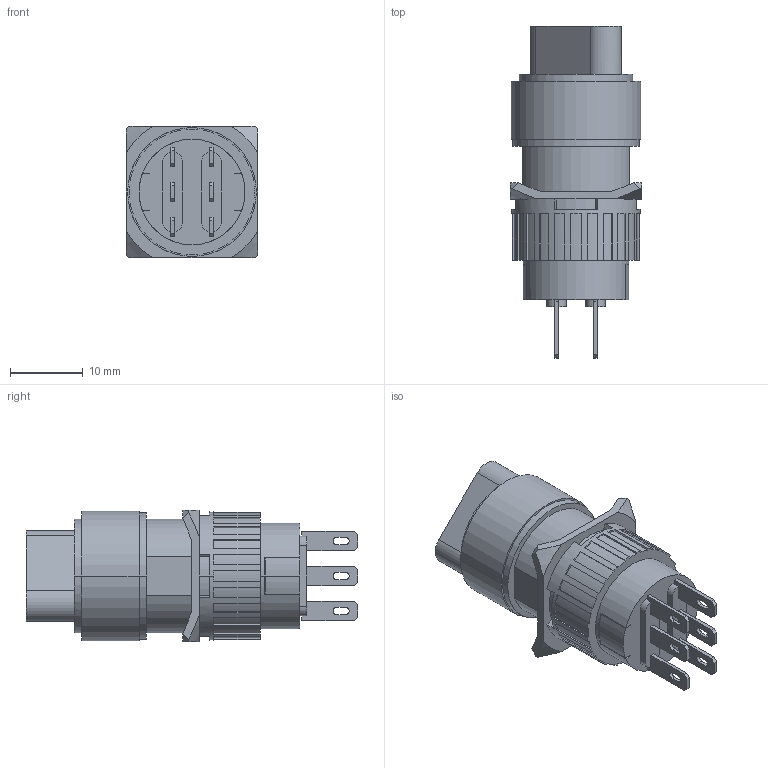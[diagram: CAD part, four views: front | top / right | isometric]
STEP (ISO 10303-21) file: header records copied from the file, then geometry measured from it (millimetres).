
FILE_DESCRIPTION (( 'STEP AP203' ), '1' );
FILE_NAME ('P16-L.STEP', '2018-02-15T15:25:59', ( '' ), ( '' ), 'SwSTEP 2.0', 'SolidWorks 2012', '' );
FILE_SCHEMA (( 'CONFIG_CONTROL_DESIGN' ));
Length unit declared in the file: millimetre
Products named in the file (1): P16-L
Bounding box: 18 x 45.5 x 18 mm (x, y, z)
Volume: 7235.9 mm3; surface area: 3829.3 mm2
Topology: 1 solids, 1 shells, 276 faces, 776 edges, 514 vertices
Faces by surface type: plane 186, cylinder 78, cone 12
Entity records: 9061 total; most frequent: CARTESIAN_POINT 1639, ORIENTED_EDGE 1552, DIRECTION 1542, EDGE_CURVE 776, VECTOR 516, LINE 516, VERTEX_POINT 514, AXIS2_PLACEMENT_3D 513
